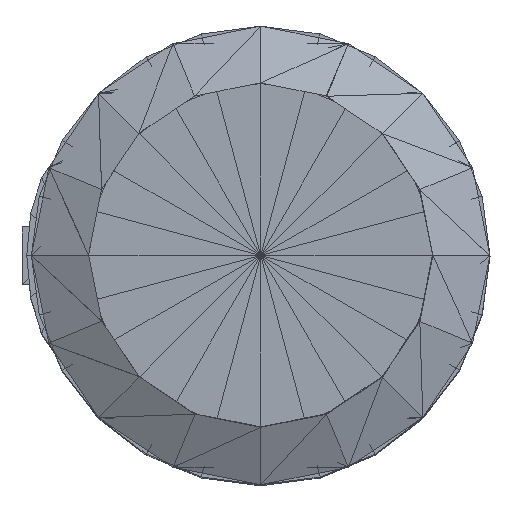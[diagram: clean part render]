
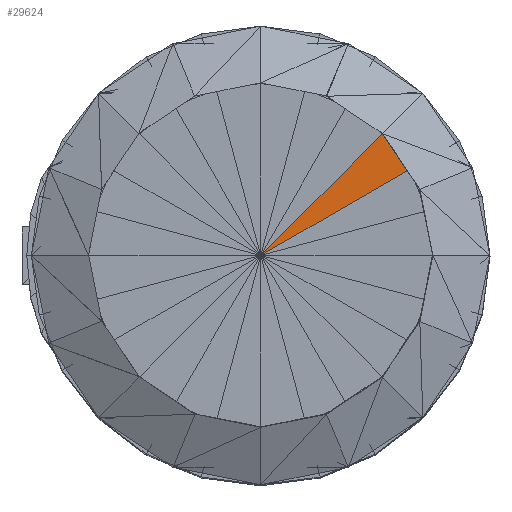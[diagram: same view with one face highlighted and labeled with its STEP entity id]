
A CAD part, top view. The second image highlights one B-rep face of the part: STEP entity #29624.
In plain terms, the highlighted planar face has unit normal (0, 0, 1).
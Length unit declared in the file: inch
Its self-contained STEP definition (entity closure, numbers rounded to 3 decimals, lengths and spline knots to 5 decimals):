
#29539=CARTESIAN_POINT('',(0.,-0.00008,0.38315));
#29540=VERTEX_POINT('',#29539);
#29584=CARTESIAN_POINT('',(0.06629,0.06621,0.38316));
#29585=VERTEX_POINT('',#29584);
#29593=CARTESIAN_POINT('',(0.,-0.00008,0.38315));
#29594=DIRECTION('',(0.707,0.707,0.));
#29595=VECTOR('',#29594,0.09375);
#29596=LINE('',#29593,#29595);
#29597=EDGE_CURVE('',#29540,#29585,#29596,.T.);
#29602=CARTESIAN_POINT('',(0.08119,0.0468,0.38315));
#29603=DIRECTION('',(0.,0.,1.));
#29604=DIRECTION('',(1.,0.,0.));
#29605=AXIS2_PLACEMENT_3D('',#29602,#29603,#29604);
#29606=PLANE('',#29605);
#29607=CARTESIAN_POINT('',(0.08119,0.0468,0.38316));
#29608=VERTEX_POINT('',#29607);
#29609=CARTESIAN_POINT('',(0.08119,0.0468,0.38315));
#29610=DIRECTION('',(-0.609,0.793,0.));
#29611=VECTOR('',#29610,0.02447);
#29612=LINE('',#29609,#29611);
#29613=EDGE_CURVE('',#29608,#29585,#29612,.T.);
#29614=ORIENTED_EDGE('',*,*,#29613,.T.);
#29615=ORIENTED_EDGE('',*,*,#29597,.F.);
#29616=CARTESIAN_POINT('',(0.,-0.00008,0.38315));
#29617=DIRECTION('',(0.866,0.5,0.));
#29618=VECTOR('',#29617,0.09375);
#29619=LINE('',#29616,#29618);
#29620=EDGE_CURVE('',#29540,#29608,#29619,.T.);
#29621=ORIENTED_EDGE('',*,*,#29620,.T.);
#29622=EDGE_LOOP('',(#29614,#29615,#29621));
#29623=FACE_BOUND('',#29622,.T.);
#29624=ADVANCED_FACE('',(#29623),#29606,.T.);
